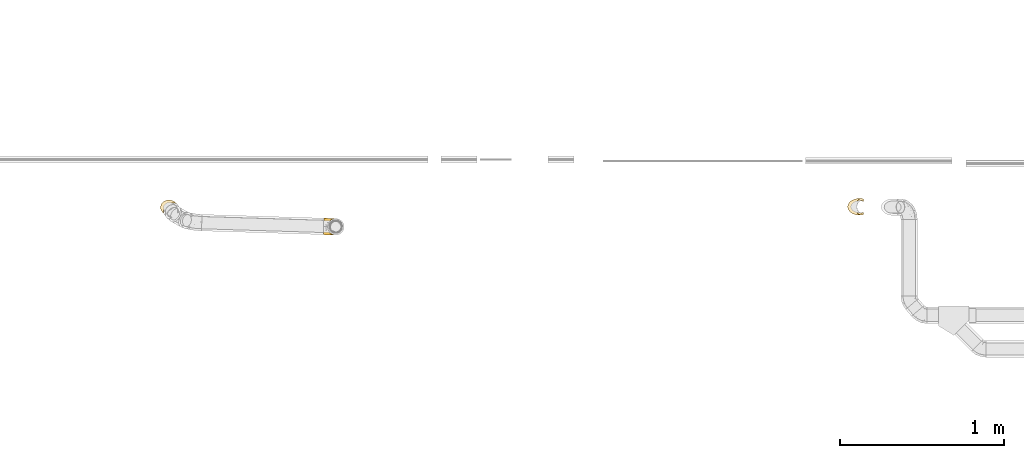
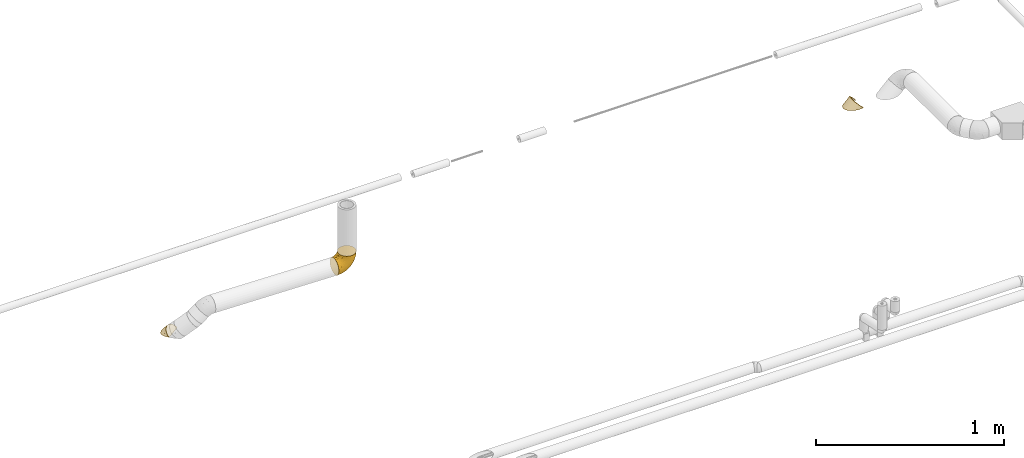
# One storey, part 32 of 156: 3 coverings.
"""IFC2X3 building model written with IfcOpenShell, lengths in millimetres."""

import ifcopenshell
import ifcopenshell.guid

model = None  # the IFC model being written
_history = None  # IfcOwnerHistory: only IFC2X3 demands one
_inside = {}  # id of a spatial element -> (the spatial element, [elements in it])
_under = {}  # id of a project, library or spatial element -> (it, [spatial elements below it])
_declared = {}  # id of a project -> (the project, [libraries it declares])
_typed = {}  # id of a type object -> (the type object, [elements of that type])
_made_of = {}  # id of a material, layer set ... -> (it, [elements and type objects made of it])


def new_model(schema):
    """Start an empty IFC model of exactly this schema.

    Asked for "IFC4X3", IfcOpenShell would pick the latest addendum, in which some entities
    have other attributes; the version numbers below select the first issue.
    IFC2X3 requires an IfcOwnerHistory on every rooted entity: one is made here for all.
    """
    global model, _history
    if schema == "IFC4X3":
        model = ifcopenshell.file(schema_version=(4, 3, 0, 0))
    else:
        model = ifcopenshell.file(schema=schema)
    _inside.clear()
    _under.clear()
    _declared.clear()
    _typed.clear()
    _made_of.clear()
    _history = None
    if model.schema == "IFC2X3":
        org = make("IfcOrganization", Name="unknown")
        user = make(
            "IfcPersonAndOrganization",
            ThePerson=make("IfcPerson", FamilyName="unknown"),
            TheOrganization=org,
        )
        app = make(
            "IfcApplication",
            ApplicationDeveloper=org,
            Version="unknown",
            ApplicationFullName="unknown",
            ApplicationIdentifier="unknown",
        )
        _history = make(
            "IfcOwnerHistory",
            OwningUser=user,
            OwningApplication=app,
            ChangeAction="ADDED",
            CreationDate=0,
        )
    return model


def make(cls, **values):
    """One entity of the class cls with the attributes given. An attribute that is None is left unset."""
    return model.create_entity(
        cls, **{name: value for name, value in values.items() if value is not None}
    )


def entity(cls, *values):
    """Any entity or typed value of the class cls, its attributes in the order of the schema. None: left unset."""
    e = model.create_entity(cls)
    for i, value in enumerate(values):
        if value is not None:
            e[i] = value
    return e


def rooted(cls, **values):
    """An entity with a GlobalId (a new one), such as an element, a storey or a relation."""
    return make(cls, GlobalId=ifcopenshell.guid.new(), OwnerHistory=_history, **values)


def si_unit(unit_type, name, prefix=None):
    """IfcSIUnit, for example si_unit("LENGTHUNIT", "METRE", prefix="MILLI")."""
    return make("IfcSIUnit", UnitType=unit_type, Prefix=prefix, Name=name)


def converted_unit(unit_type, name, factor, base, dimensions=None, offset=None):
    """IfcConversionBasedUnit, such as the inch: factor (a typed value) times the base unit."""
    return make(
        "IfcConversionBasedUnit"
        if offset is None
        else "IfcConversionBasedUnitWithOffset",
        ConversionOffset=offset,
        Dimensions=None
        if dimensions is None
        else entity("IfcDimensionalExponents", *dimensions),
        UnitType=unit_type,
        Name=name,
        ConversionFactor=make(
            "IfcMeasureWithUnit", ValueComponent=factor, UnitComponent=base
        ),
    )


def derived_unit(unit_type, elements):
    """IfcDerivedUnit: a product of units, each with its exponent."""
    return make(
        "IfcDerivedUnit",
        Elements=[
            make("IfcDerivedUnitElement", Unit=unit, Exponent=power)
            for unit, power in elements
        ],
        UnitType=unit_type,
    )


def assignment(units):
    """IfcUnitAssignment: the units of a project."""
    return None if units is None else make("IfcUnitAssignment", Units=units)


def point(xyz):
    """IfcCartesianPoint."""
    return None if xyz is None else make("IfcCartesianPoint", Coordinates=xyz)


def direction(xyz):
    """IfcDirection."""
    return None if xyz is None else make("IfcDirection", DirectionRatios=xyz)


def frame(location, z_axis=None, x_axis=None):
    """IfcAxis2Placement3D, a coordinate frame: its origin and axes. An axis left out is left unset."""
    return make(
        "IfcAxis2Placement3D",
        Location=point(location),
        Axis=direction(z_axis),
        RefDirection=direction(x_axis),
    )


def origin_with_axes():
    """The frame at (0, 0, 0) with the z axis (0, 0, 1) and the x axis (1, 0, 0) written out."""
    return frame((0.0, 0.0, 0.0), z_axis=(0.0, 0.0, 1.0), x_axis=(1.0, 0.0, 0.0))


def place(relative_to, where):
    """IfcLocalPlacement: puts the frame where relative to a parent placement (None: the world)."""
    return make(
        "IfcLocalPlacement", PlacementRelTo=relative_to, RelativePlacement=where
    )


def context(
    kind, dimensions, precision=None, world=None, true_north=None, identifier=None
):
    """IfcGeometricRepresentationContext, for example the 3D "Model" context."""
    return make(
        "IfcGeometricRepresentationContext",
        ContextIdentifier=identifier,
        ContextType=kind,
        CoordinateSpaceDimension=dimensions,
        Precision=precision,
        WorldCoordinateSystem=world,
        TrueNorth=true_north,
    )


def subcontext(parent, identifier, kind, view, scale=None):
    """IfcGeometricRepresentationSubContext, for example "Body" below "Model"."""
    return make(
        "IfcGeometricRepresentationSubContext",
        ContextIdentifier=identifier,
        ContextType=kind,
        ParentContext=parent,
        TargetScale=scale,
        TargetView=view,
    )


def project(units=None, contexts=None):
    """IfcProject with its units and contexts."""
    return rooted(
        "IfcProject",
        Name="project",
        RepresentationContexts=contexts,
        UnitsInContext=assignment(units),
    )


def spatial(cls, under=None, at=None, **own):
    """A site, building, storey or space (cls), placed at a placement, below another one or the project."""
    s = rooted(cls, ObjectPlacement=at, **own)
    if under is not None:
        _under.setdefault(under.id(), (under, []))[1].append(s)
    return s


def faces_of(points, faces, orient=None, outer=None):
    """IfcFace entities. A face is a list of loops; a loop is a list of indices into points, from 0.

    orient and outer hold one flag for each loop. By default every Orientation is true, the
    first loop of a face is its IfcFaceOuterBound and the others are IfcFaceBound.
    """
    made = []
    for i, loops in enumerate(faces):
        bounds = []
        for j, loop in enumerate(loops):
            is_outer = j == 0 if outer is None else outer[i][j]
            bounds.append(
                make(
                    "IfcFaceOuterBound" if is_outer else "IfcFaceBound",
                    Bound=make("IfcPolyLoop", Polygon=[points[k] for k in loop]),
                    Orientation=True if orient is None else orient[i][j],
                )
            )
        made.append(make("IfcFace", Bounds=bounds))
    return made


def open_shell(faces, orient=None, outer=None):
    """The faces of one IfcOpenShell. surface_model builds it on its shared points."""
    return ("IfcOpenShell", faces, orient, outer)


def faceted_brep(points, faces, orient=None, outer=None, voids=None):
    """IfcFacetedBrep: a solid bounded by flat faces; with voids (closed shells), ...WithVoids."""
    shared = [point(p) for p in points]
    hull = make("IfcClosedShell", CfsFaces=faces_of(shared, faces, orient, outer))
    if voids is None:
        return make("IfcFacetedBrep", Outer=hull)
    return make(
        "IfcFacetedBrepWithVoids",
        Outer=hull,
        Voids=[
            make(cls, CfsFaces=faces_of(shared, fs, o, b)) for cls, fs, o, b in voids
        ],
    )


def surface_model(cls, points, shells):
    """IfcFaceBasedSurfaceModel or IfcShellBasedSurfaceModel (cls): surfaces that need not close."""
    shared = [point(p) for p in points]
    made = [make(c, CfsFaces=faces_of(shared, fs, o, b)) for c, fs, o, b in shells]
    if cls == "IfcFaceBasedSurfaceModel":
        return make(cls, FbsmFaces=made)
    return make(cls, SbsmBoundary=made)


def shape(context_of_items, identifier, shape_type, items):
    """IfcShapeRepresentation: the items that make up one representation, for example the "Body"."""
    return make(
        "IfcShapeRepresentation",
        ContextOfItems=context_of_items,
        RepresentationIdentifier=identifier,
        RepresentationType=shape_type,
        Items=items,
    )


def source(mapping_origin, context_of_items, identifier, shape_type, items):
    """IfcRepresentationMap: a shape defined once, which mapped items show again and again."""
    return make(
        "IfcRepresentationMap",
        MappingOrigin=mapping_origin,
        MappedRepresentation=shape(context_of_items, identifier, shape_type, items),
    )


def transform(
    local_origin,
    x_axis=None,
    y_axis=None,
    z_axis=None,
    scale=None,
    scale2=None,
    scale3=None,
    uniform=True,
):
    """IfcCartesianTransformationOperator3D, or its non-uniform kind. x_axis, y_axis, z_axis: its Axis1, 2, 3."""
    if uniform:
        return make(
            "IfcCartesianTransformationOperator3D",
            Axis1=direction(x_axis),
            Axis2=direction(y_axis),
            LocalOrigin=point(local_origin),
            Scale=scale,
            Axis3=direction(z_axis),
        )
    return make(
        "IfcCartesianTransformationOperator3DnonUniform",
        Axis1=direction(x_axis),
        Axis2=direction(y_axis),
        LocalOrigin=point(local_origin),
        Scale=scale,
        Axis3=direction(z_axis),
        Scale2=scale2,
        Scale3=scale3,
    )


def mapped(mapping_source, mapping_target):
    """IfcMappedItem: shows the shape of a source again, moved by a transform."""
    return make(
        "IfcMappedItem", MappingSource=mapping_source, MappingTarget=mapping_target
    )


def made_of(thing, what):
    """Note that an element or type object is made of a material, layer set ...; save() writes the relation."""
    if what is not None:
        _made_of.setdefault(what.id(), (what, []))[1].append(thing)
    return thing


def element(
    cls,
    number,
    at=None,
    inside=None,
    cuts=None,
    type_object=None,
    material=None,
    context=None,
    identifier="Body",
    shape_type=None,
    held_by="IfcProductDefinitionShape",
    body=None,
    shapes=None,
    **own,
):
    """One element of the class cls, such as IfcWall. Its Tag is "e" and its number.

    at: its placement. inside: the storey or other place that contains it. cuts: it is an
    opening in that element (IfcRelVoidsElement). A single representation is given by context,
    identifier, shape_type and body (its items); several are given by shapes. held_by: the class
    of the entity that holds the representations. save() writes the other relations.
    """
    e = rooted(cls, Tag="e%d" % number, ObjectPlacement=at, **own)
    if body is not None:
        shapes = [shape(context, identifier, shape_type, body)]
    if shapes is not None:
        e.Representation = make(held_by, Representations=shapes)
    if inside is not None:
        _inside.setdefault(inside.id(), (inside, []))[1].append(e)
    if cuts is not None:
        rooted(
            "IfcRelVoidsElement", RelatingBuildingElement=cuts, RelatedOpeningElement=e
        )
    if type_object is not None:
        _typed.setdefault(type_object.id(), (type_object, []))[1].append(e)
    return made_of(e, material)


def aggregate(whole, parts):
    """IfcRelAggregates: a whole, such as a stair, and the parts it consists of."""
    return rooted("IfcRelAggregates", RelatingObject=whole, RelatedObjects=parts)


def save(model, path):
    """Write the relations noted so far, then the file.

    IfcRelAggregates (storeys below a building ...), IfcRelContainedInSpatialStructure (elements
    in a storey), IfcRelDefinesByType, IfcRelAssociatesMaterial and IfcRelDeclares: one each for
    every whole, place, type object, material and project.
    """
    for whole, parts in _under.values():
        aggregate(whole, parts)
    for where, things in _inside.values():
        rooted(
            "IfcRelContainedInSpatialStructure",
            RelatedElements=things,
            RelatingStructure=where,
        )
    for kind, things in _typed.values():
        rooted("IfcRelDefinesByType", RelatedObjects=things, RelatingType=kind)
    for what, things in _made_of.values():
        rooted("IfcRelAssociatesMaterial", RelatedObjects=things, RelatingMaterial=what)
    for by, libraries in _declared.values():
        rooted("IfcRelDeclares", RelatingContext=by, RelatedDefinitions=libraries)
    model.write(path)


model = new_model("IFC2X3")

# Units and contexts
model_context = context("Model", 3, precision=0.01, world=frame((0.0, 4.29681676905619e-09, 0.0)), true_north=direction((4.01073788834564e-13, 1.0)))
plan_context = context("Plan", 3, precision=0.01, world=frame((0.0, 4.29681676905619e-09, 0.0)), true_north=direction((4.01073788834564e-13, 1.0)))
body_context = subcontext(model_context, "Body", "Model", "MODEL_VIEW")
ifc_project = project(units=[converted_unit("PLANEANGLEUNIT", "DEGREE", entity("IfcPositiveLengthMeasure", 0.0174532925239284), si_unit("PLANEANGLEUNIT", "RADIAN"), dimensions=[0, 0, 0, 0, 0, 0, 0]), si_unit("AREAUNIT", "SQUARE_METRE"), si_unit("LENGTHUNIT", "METRE", prefix="MILLI"), si_unit("MASSUNIT", "GRAM", prefix="KILO"), si_unit("POWERUNIT", "WATT"), si_unit("PRESSUREUNIT", "PASCAL", prefix="KILO"), si_unit("FORCEUNIT", "NEWTON", prefix="KILO"), si_unit("ELECTRICVOLTAGEUNIT", "VOLT"), si_unit("ELECTRICCURRENTUNIT", "AMPERE"), si_unit("THERMODYNAMICTEMPERATUREUNIT", "DEGREE_CELSIUS"), si_unit("TIMEUNIT", "SECOND"), si_unit("VOLUMEUNIT", "CUBIC_METRE"), derived_unit("LINEARVELOCITYUNIT", [(si_unit("LENGTHUNIT", "METRE"), 1), (si_unit("TIMEUNIT", "SECOND"), -1)]), derived_unit("VOLUMETRICFLOWRATEUNIT", [(si_unit("VOLUMEUNIT", "CUBIC_METRE"), 1), (si_unit("TIMEUNIT", "SECOND"), -1)]), derived_unit("THERMALTRANSMITTANCEUNIT", [(si_unit("POWERUNIT", "WATT"), 1), (si_unit("THERMODYNAMICTEMPERATUREUNIT", "KELVIN"), -1), (si_unit("AREAUNIT", "SQUARE_METRE"), -1)]), derived_unit("SOUNDPRESSUREUNIT", [(si_unit("PRESSUREUNIT", "PASCAL"), 1)])], contexts=[model_context, plan_context])

# Site, building, storey
site_placement = place(None, frame((0.0, -4.29681676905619e-09, 0.0), z_axis=(0.0, 0.0, 1.0), x_axis=(1.0, 0.0, 0.0)))
site = spatial("IfcSite", under=ifc_project, at=site_placement, CompositionType="ELEMENT")
building_placement = place(site_placement, frame((0.0, 4.29681676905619e-09, 0.0), z_axis=(0.0, 0.0, 1.0), x_axis=(1.0, 0.0, 0.0)))
building = spatial("IfcBuilding", under=site, at=building_placement, Name="mc-building", CompositionType="ELEMENT")
storey_placement = place(building_placement, frame((0.0, 0.0, 205200.0), z_axis=(0.0, 0.0, 1.0), x_axis=(1.0, 0.0, 0.0)))
storey = spatial("IfcBuildingStorey", under=building, at=storey_placement, Name="Nivå D + 1,2 m", CompositionType="ELEMENT", Elevation=205200.0)

# Coverings
shared_shape = source(origin_with_axes(), body_context, "Body", "SurfaceModel", [
    surface_model("IfcShellBasedSurfaceModel", [(31.49394, 75.0, 39.47635), (11.24292, 75.0, 49.23258), (21.91909, 75.0, 45.49509), (-11.23089, 75.0, 49.23533), (-31.47888, 75.0, 39.48835), (-21.90382, 75.0, 45.50245), (-45.49509, 75.0, 21.91909), (-39.47635, 75.0, 31.49394), (-49.23258, 75.0, 11.24292), (-45.50245, 75.0, -21.90382), (-31.49394, 75.0, -39.47635), (-39.48835, 75.0, -31.47888), (-11.24292, 75.0, -49.23258), (-21.91909, 75.0, -45.49509), (-75.0, 25.25, -43.73428), (-75.0, 50.5, 0.0), (-75.0, 48.77925, -13.07036), (-75.0, 43.73428, -25.25), (-75.0, 13.07036, 48.77925), (-75.0, 35.70889, -35.70889), (-75.0, 13.07036, -48.77925), (-75.0, 48.77925, 13.07036), (-75.0, 35.70889, 35.70889), (-75.0, 43.73428, 25.25), (-75.0, 25.25, 43.73428), (-75.0, 0.0, 50.5), (-75.0, 0.0, -50.5), (-75.0, -35.70889, -35.70889), (-75.0, -13.07036, -48.77925), (-75.0, -25.25, -43.73428), (-75.0, -25.25, 43.73428), (-75.0, -43.73428, -25.25), (-75.0, -48.77925, -13.07036), (-75.0, -50.5, 0.0), (-75.0, -35.70889, 35.70889), (-75.0, -13.07036, 48.77925), (-75.0, -43.73428, 25.25), (-75.0, -48.77925, 13.07036), (12.64934, -12.64934, 0.0), (26.53163, 1.23295, 0.0), (11.64011, -11.64012, 17.0697), (-36.21837, -44.35759, 0.0), (-43.96193, -45.82224, 8.69831), (-50.1633, -46.56625, 0.0), (-13.93902, -32.39238, 13.94061), (-27.04529, -32.26369, 27.28364), (-45.2062, -43.62199, 17.67364), (-52.64686, -39.03065, 29.20162), (6.1382, 52.8732, 49.67312), (0.0, 75.0, 50.5), (-19.65704, -0.83379, 46.83764), (-49.45987, -19.06709, 45.22422), (-23.23209, -15.49393, 41.16316), (-49.7688, -7.34228, 49.26021), (-44.8156, -29.06527, 37.91745), (33.6367, 44.70154, 33.50702), (26.64162, 52.3117, 41.24235), (21.07138, 25.24575, 38.06097), (-4.22725, 24.69178, 49.09447), (-5.70904, 46.29874, 50.5), (-21.96699, 21.96699, 50.5), (0.2263, 8.20988, 43.53163), (35.45552, 17.83502, 10.6165), (44.35759, 36.21837, 0.0), (44.47618, 45.03363, 15.14065), (-46.29874, 5.70904, 50.5), (-27.11707, 6.63076, 49.78474), (33.03742, 23.23942, 23.31327), (45.50245, 75.0, 21.90382), (49.23533, 75.0, 11.23089), (39.48835, 75.0, 31.47888), (41.55445, 52.84592, 25.41048), (46.56625, 50.1633, 0.0), (4.57882, -11.26336, 27.48812), (22.55206, 4.12106, 21.73596), (19.66588, 8.90627, 30.22564), (-1.23295, -26.53163, 0.0), (12.07449, 31.0651, 45.19532), (17.71923, 53.83757, 46.32595), (3.04218, -2.48883, 36.42539), (-13.45794, -19.37586, 33.63512), (-18.72566, -35.44461, 0.0), (35.44461, 18.72566, 0.0), (50.5, 75.0, 0.0), (-48.52842, 68.17879, 16.68598), (-55.27416, 12.69306, 49.57038), (-58.88306, 3.20586, 50.5), (-38.27136, 29.97394, 47.59046), (-23.57111, 41.59228, 48.61379), (-36.94496, 65.19489, 35.7157), (-27.7375, 65.85146, 42.76423), (-61.4974, 42.7792, 30.74245), (-63.84733, 32.17071, 40.06434), (-51.42312, 36.25154, 40.88495), (-45.46439, 62.06116, 26.87553), (-43.34221, 68.87219, 26.87553), (-36.51863, 43.60511, 43.68418), (-65.25465, 51.47265, 9.82931), (-62.75, 53.78238, 0.0), (-68.875, 52.14119, 0.0), (-51.88239, 69.84084, 0.0), (-64.63162, 17.93727, 47.55155), (-67.6261, 47.6319, 19.32551), (-68.85458, 40.6091, 30.74245), (-50.5, 75.0, 0.0), (-44.41033, 19.8553, 49.06838), (-54.82145, 23.11094, 46.65592), (-18.51685, 60.44696, 47.66853), (-54.54935, 48.93662, 28.23238), (-62.70186, 49.7903, 18.59835), (-3.20586, 58.88306, 50.5), (-61.04403, 53.85982, 9.12542), (-30.90564, 55.6835, 42.76423), (-40.3113, 56.53409, 35.71531), (-52.18855, 61.13263, 14.72938), (-53.78238, 62.75, 0.0), (-56.73444, 57.02186, 10.61847), (-58.26619, 58.26619, 0.0), (-13.83801, 34.13287, 50.5), (-70.20679, 50.0494, 9.52724), (-46.98514, 47.44109, 35.7157), (-50.60359, 55.15507, 25.56392), (-52.83369, 43.2423, 35.13728), (-58.30018, 52.78702, 17.93024), (-34.13287, 13.83801, 50.5), (-51.7235, 52.67811, -26.88284), (-57.10258, 45.71425, -29.92521), (-56.9186, 54.00325, -17.71529), (-60.51936, 21.24165, -46.65592), (-70.0781, 47.08652, -19.32551), (-67.84416, 50.44944, -10.35086), (-64.15319, 48.81348, -19.32551), (-18.53163, 60.44501, -47.6637), (-62.8657, 52.46804, -10.44324), (-57.90228, 34.17845, -40.06435), (-65.95799, 41.25474, -30.74245), (-43.35228, 68.87084, -26.8602), (-48.5334, 68.17884, -16.67216), (-45.47548, 62.05985, -26.8602), (-36.95883, 65.19564, -35.70208), (-55.23148, 12.55824, -49.59768), (-52.18863, 61.13975, -14.71703), (-67.2194, 31.43175, -40.06434), (-55.97795, 58.02605, -9.97117), (-49.23533, 75.0, -11.23089), (-3.20586, 58.88306, -50.5), (-51.08787, 25.5783, -46.32865), (-41.32575, 29.23594, -47.11339), (-44.57478, 19.12548, -49.20135), (-23.58829, 41.57625, -48.61219), (-31.49814, 46.19734, -45.04631), (-38.07713, 57.85881, -37.07141), (-30.92319, 55.68162, -42.7546), (-38.79962, 50.15024, -39.79427), (-27.75338, 65.85005, -42.7546), (-40.50037, 40.68263, -43.08729), (-31.85017, 34.10086, -48.04724), (-5.70904, 46.29874, -50.5), (-21.96699, 21.96699, -50.5), (-13.83801, 34.13287, -50.5), (-32.99402, 23.81556, -49.7299), (-58.88306, 3.20586, -50.5), (-49.98369, 39.29273, -39.54988), (-47.00535, 47.43996, -35.70209), (-69.84084, 51.88239, 0.0), (-44.82061, 55.09846, -32.26415), (-49.27707, 57.82009, -24.66381), (0.0, 75.0, -50.5), (-46.29874, 5.70904, -50.5), (-34.13287, 13.83801, -50.5), (-27.12034, 6.63398, -49.78551), (-44.8115, -29.06446, -37.91714), (-49.45933, -19.06701, -45.22419), (-23.22135, -15.48723, -41.1635), (3.03431, -2.47986, -36.43681), (0.21934, 8.21978, -43.53855), (21.06009, 25.25195, -38.07219), (19.65845, 8.91335, -30.23922), (-4.23256, 24.69711, -49.09625), (-49.7688, -7.34228, -49.26021), (-43.96192, -45.82226, -8.69822), (-45.20209, -43.62105, -17.67341), (-19.66242, -0.82834, -46.8407), (12.06287, 31.07048, -45.20169), (-52.64059, -39.02974, -29.20117), (-27.03461, -32.25951, -27.28279), (11.63925, -11.63926, -17.0731), (4.56555, -11.2681, -27.49661), (6.13272, 52.87845, -49.67434), (11.23089, 75.0, -49.23533), (45.49509, 75.0, -21.91909), (49.23258, 75.0, -11.24292), (44.47172, 45.03273, -15.15371), (39.47635, 75.0, -31.49394), (33.62422, 44.70155, -33.52058), (31.47888, 75.0, -39.48835), (35.44701, 17.82392, -10.62791), (26.62716, 52.31215, -41.25239), (-13.93805, -32.39219, -13.93949), (22.54286, 4.11912, -21.74918), (33.03036, 23.24222, -23.32782), (41.54481, 52.84076, -25.42509), (-13.43916, -19.35244, -33.6456), (21.90382, 75.0, -45.50245), (17.70473, 53.84028, -46.33234)], [open_shell([[[0, 1, 2]], [[3, 4, 5]], [[6, 7, 8]], [[8, 7, 4]], [[9, 10, 11]], [[12, 10, 9]], [[13, 10, 12]], [[14, 15, 16]], [[14, 16, 17]], [[15, 14, 18]], [[14, 17, 19]], [[18, 14, 20]], [[21, 22, 23]], [[22, 21, 18]], [[22, 18, 24]], [[21, 15, 18]], [[20, 25, 18]], [[20, 26, 25]], [[27, 26, 28]], [[27, 28, 29]], [[30, 27, 31]], [[27, 30, 25]], [[32, 33, 31]], [[30, 33, 34]], [[35, 25, 30]], [[36, 33, 37]], [[33, 36, 34]], [[31, 33, 30]], [[25, 26, 27]], [[38, 39, 40]], [[41, 42, 43]], [[44, 45, 46]], [[46, 45, 47]], [[48, 1, 49]], [[50, 51, 52]], [[36, 37, 46]], [[35, 51, 53]], [[34, 54, 30]], [[47, 34, 36]], [[55, 56, 57]], [[56, 0, 2]], [[58, 59, 60]], [[25, 35, 53]], [[50, 52, 61]], [[62, 63, 64]], [[65, 66, 60]], [[62, 64, 67]], [[56, 55, 0]], [[51, 30, 54]], [[68, 64, 69]], [[34, 47, 54]], [[68, 70, 71]], [[64, 72, 69]], [[66, 58, 60]], [[40, 73, 44]], [[40, 74, 73]], [[55, 70, 0]], [[48, 49, 59]], [[55, 57, 75]], [[37, 43, 42]], [[40, 76, 38]], [[77, 78, 48]], [[77, 56, 78]], [[30, 51, 35]], [[73, 79, 80]], [[67, 64, 71]], [[42, 81, 44]], [[67, 55, 75]], [[71, 64, 68]], [[61, 58, 50]], [[46, 47, 36]], [[44, 46, 42]], [[44, 76, 40]], [[78, 56, 2]], [[57, 56, 77]], [[61, 57, 77]], [[57, 79, 75]], [[70, 55, 71]], [[67, 71, 55]], [[52, 51, 54]], [[50, 66, 53]], [[80, 54, 45]], [[61, 52, 79]], [[50, 53, 51]], [[25, 53, 65]], [[59, 58, 48]], [[77, 48, 58]], [[62, 67, 74]], [[62, 39, 82]], [[2, 1, 78]], [[48, 78, 1]], [[72, 64, 63]], [[72, 83, 69]], [[54, 47, 45]], [[37, 33, 43]], [[37, 42, 46]], [[53, 66, 65]], [[58, 66, 50]], [[73, 75, 79]], [[74, 67, 75]], [[80, 79, 52]], [[44, 73, 45]], [[54, 80, 52]], [[45, 73, 80]], [[73, 74, 75]], [[62, 74, 40]], [[57, 61, 79]], [[58, 61, 77]], [[40, 39, 62]], [[81, 42, 41]], [[81, 76, 44]], [[63, 62, 82]], [[6, 8, 84]], [[65, 85, 86]], [[87, 60, 88]], [[85, 18, 86]], [[89, 90, 4]], [[91, 92, 93]], [[94, 95, 84]], [[96, 93, 87]], [[97, 98, 99]], [[8, 100, 84]], [[101, 92, 24]], [[23, 102, 21]], [[22, 103, 23]], [[23, 103, 102]], [[8, 104, 100]], [[105, 87, 106]], [[88, 59, 107]], [[91, 108, 109]], [[89, 4, 7]], [[5, 90, 107]], [[18, 85, 101]], [[7, 6, 95]], [[107, 110, 3]], [[5, 107, 3]], [[97, 111, 98]], [[112, 90, 89]], [[113, 112, 89]], [[94, 84, 114]], [[84, 115, 114]], [[116, 115, 117]], [[88, 107, 112]], [[95, 89, 7]], [[24, 92, 22]], [[113, 89, 94]], [[88, 96, 87]], [[5, 4, 90]], [[88, 60, 118]], [[115, 84, 100]], [[102, 97, 119]], [[120, 121, 108]], [[121, 94, 114]], [[93, 92, 106]], [[103, 92, 91]], [[117, 111, 116]], [[121, 120, 113]], [[87, 93, 106]], [[122, 120, 108]], [[105, 106, 85]], [[88, 112, 96]], [[110, 107, 59]], [[110, 49, 3]], [[21, 119, 15]], [[107, 90, 112]], [[84, 95, 6]], [[89, 95, 94]], [[116, 121, 114]], [[111, 117, 98]], [[108, 121, 123]], [[18, 25, 86]], [[124, 105, 65]], [[85, 106, 101]], [[87, 124, 60]], [[65, 105, 85]], [[124, 87, 105]], [[92, 101, 106]], [[24, 18, 101]], [[119, 97, 99]], [[109, 97, 102]], [[113, 96, 112]], [[93, 96, 120]], [[15, 119, 99]], [[102, 119, 21]], [[121, 113, 94]], [[96, 113, 120]], [[109, 108, 123]], [[122, 91, 93]], [[92, 103, 22]], [[102, 103, 91]], [[91, 109, 102]], [[111, 109, 123]], [[109, 111, 97]], [[111, 123, 116]], [[121, 116, 123]], [[115, 116, 114]], [[91, 122, 108]], [[93, 120, 122]], [[118, 59, 88]], [[125, 126, 127]], [[14, 128, 20]], [[129, 130, 131]], [[132, 13, 12]], [[133, 130, 98]], [[126, 134, 135]], [[136, 137, 9]], [[138, 136, 139]], [[140, 20, 128]], [[137, 138, 141]], [[142, 14, 19]], [[17, 129, 135]], [[117, 143, 133]], [[14, 142, 128]], [[100, 104, 144]], [[132, 12, 145]], [[141, 115, 137]], [[146, 147, 148]], [[137, 115, 100]], [[137, 144, 9]], [[129, 17, 16]], [[140, 146, 148]], [[132, 149, 150]], [[10, 139, 11]], [[151, 152, 153]], [[10, 13, 154]], [[151, 139, 152]], [[155, 150, 156]], [[157, 132, 145]], [[17, 135, 19]], [[154, 139, 10]], [[154, 132, 152]], [[155, 153, 150]], [[149, 132, 157]], [[158, 149, 159]], [[11, 136, 9]], [[147, 160, 148]], [[100, 144, 137]], [[20, 140, 161]], [[155, 162, 163]], [[133, 143, 127]], [[16, 15, 164]], [[126, 135, 131]], [[142, 135, 134]], [[138, 165, 166]], [[141, 127, 143]], [[12, 167, 145]], [[132, 154, 13]], [[139, 154, 152]], [[139, 136, 11]], [[137, 136, 138]], [[127, 126, 131]], [[126, 163, 162]], [[133, 131, 130]], [[165, 125, 166]], [[161, 140, 168]], [[161, 26, 20]], [[160, 158, 169]], [[169, 168, 148]], [[140, 148, 168]], [[156, 160, 147]], [[169, 148, 160]], [[146, 140, 128]], [[128, 134, 146]], [[162, 146, 134]], [[155, 156, 147]], [[156, 149, 158]], [[147, 146, 162]], [[153, 155, 163]], [[147, 162, 155]], [[126, 162, 134]], [[165, 153, 163]], [[150, 153, 152]], [[125, 165, 163]], [[151, 138, 139]], [[126, 125, 163]], [[166, 127, 141]], [[132, 150, 152]], [[150, 149, 156]], [[153, 165, 151]], [[138, 151, 165]], [[127, 166, 125]], [[141, 143, 115]], [[141, 138, 166]], [[135, 142, 19]], [[128, 142, 134]], [[130, 16, 164]], [[135, 129, 131]], [[16, 130, 129]], [[98, 130, 164]], [[117, 133, 98]], [[127, 131, 133]], [[149, 157, 159]], [[158, 160, 156]], [[115, 143, 117]], [[168, 158, 170]], [[171, 172, 173]], [[174, 173, 175]], [[174, 176, 177]], [[158, 157, 178]], [[168, 179, 26]], [[172, 29, 28]], [[171, 29, 172]], [[180, 32, 181]], [[170, 178, 182]], [[175, 178, 183]], [[184, 181, 31]], [[31, 181, 32]], [[184, 171, 185]], [[38, 76, 186]], [[171, 27, 29]], [[177, 187, 174]], [[183, 178, 188]], [[167, 188, 157]], [[186, 39, 38]], [[167, 189, 188]], [[190, 191, 192]], [[193, 194, 195]], [[196, 63, 82]], [[192, 191, 72]], [[194, 197, 195]], [[198, 181, 185]], [[196, 186, 199]], [[200, 192, 196]], [[193, 190, 201]], [[183, 197, 176]], [[201, 190, 192]], [[63, 192, 72]], [[182, 172, 179]], [[171, 173, 202]], [[201, 200, 194]], [[177, 176, 194]], [[184, 31, 27]], [[195, 197, 203]], [[203, 197, 204]], [[32, 180, 43]], [[198, 81, 180]], [[198, 185, 187]], [[81, 41, 180]], [[176, 197, 194]], [[204, 197, 183]], [[177, 194, 200]], [[175, 176, 174]], [[200, 201, 192]], [[194, 193, 201]], [[179, 172, 28]], [[173, 172, 182]], [[175, 173, 182]], [[174, 187, 202]], [[26, 179, 28]], [[179, 168, 170]], [[188, 189, 204]], [[178, 157, 188]], [[63, 196, 192]], [[196, 39, 186]], [[188, 204, 183]], [[189, 203, 204]], [[191, 83, 72]], [[171, 184, 27]], [[181, 184, 185]], [[43, 180, 41]], [[43, 33, 32]], [[198, 180, 181]], [[178, 170, 158]], [[179, 170, 182]], [[200, 199, 177]], [[177, 199, 187]], [[198, 187, 186]], [[174, 202, 173]], [[187, 185, 202]], [[171, 202, 185]], [[196, 199, 200]], [[187, 199, 186]], [[178, 175, 182]], [[176, 175, 183]], [[186, 76, 198]], [[198, 76, 81]], [[82, 39, 196]], [[1, 3, 49]], [[68, 69, 70]], [[0, 70, 69]], [[4, 1, 144]], [[0, 144, 1]], [[3, 1, 4]], [[144, 8, 4]], [[8, 144, 104]], [[69, 144, 0]], [[144, 69, 191]], [[203, 191, 190]], [[195, 203, 190]], [[203, 144, 191]], [[190, 193, 195]], [[189, 144, 203]], [[167, 9, 144]], [[12, 9, 167]], [[144, 189, 167]], [[191, 69, 83]]])]),
])
covering_1_placement = place(storey_placement, frame((334915.24567, 461048.55858, 4166.76394), z_axis=(0.030661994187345, 0.999529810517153, 0.0), x_axis=(0.0, 0.0, -1.0)))
element("IfcCovering", 1, at=covering_1_placement, inside=storey, Name="BI17T - Cellegummi 13 mm SPV fett", PredefinedType="INSULATION", context=body_context, shape_type="MappedRepresentation", body=[
    mapped(shared_shape, transform((0.0, 0.0, 0.0), scale=1.0)),
])
covering_2_placement = place(storey_placement, frame((338065.34657, 461170.41457, 3961.05807), z_axis=(0.708908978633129, 0.0, -0.705299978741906), x_axis=(0.705299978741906, 0.0, 0.708908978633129)))
element("IfcCovering", 2, at=covering_2_placement, inside=storey, Name="BI17T - Cellegummi 13 mm SPV fett", PredefinedType="INSULATION", context=body_context, shape_type="Brep", body=[
    faceted_brep([(48.4535447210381, 36.9302907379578, -6.51180666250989), (54.9322002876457, 37.5, 0.0), (72.4, 37.5, 0.0), (72.4, 36.9302907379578, -6.51180666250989), (42.171739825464, 35.2384732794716, -12.8257553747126), (72.4, 35.2384732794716, -12.8257553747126), (36.2776550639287, 32.4759526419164, -18.75), (72.4, 32.4759526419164, -18.75), (30.9503792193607, 28.7266666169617, -24.1045353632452), (72.4, 28.7266666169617, -24.1045353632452), (26.3517788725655, 24.1045353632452, -28.7266666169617), (72.4, 24.1045353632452, -28.7266666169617), (22.6215801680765, 18.75, -32.4759526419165), (72.4, 18.75, -32.4759526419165), (19.8731233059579, 12.8257553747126, -35.2384732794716), (72.4, 12.8257553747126, -35.2384732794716), (18.189918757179, 6.51180666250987, -36.9302907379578), (72.4, 6.51180666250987, -36.9302907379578), (17.6231098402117, -6.88863824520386e-15, -37.5), (72.4, -6.88863824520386e-15, -37.5), (18.189918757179, -6.51180666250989, -36.9302907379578), (72.4, -6.51180666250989, -36.9302907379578), (19.8731233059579, -12.8257553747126, -35.2384732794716), (72.4, -12.8257553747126, -35.2384732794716), (22.6215801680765, -18.75, -32.4759526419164), (72.4, -18.75, -32.4759526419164), (26.3517788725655, -24.1045353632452, -28.7266666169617), (72.4, -24.1045353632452, -28.7266666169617), (30.9503792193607, -28.7266666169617, -24.1045353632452), (72.4, -28.7266666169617, -24.1045353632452), (36.2776550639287, -32.4759526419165, -18.75), (72.4, -32.4759526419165, -18.75), (42.171739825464, -35.2384732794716, -12.8257553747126), (72.4, -35.2384732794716, -12.8257553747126), (48.4535447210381, -36.9302907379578, -6.51180666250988), (72.4, -36.9302907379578, -6.51180666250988), (54.9322002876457, -37.5, 4.59242549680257e-15), (72.4, -37.5, 4.59242549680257e-15), (61.4108558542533, -36.9302907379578, 6.5118066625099), (72.4, -36.9302907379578, 6.5118066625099), (67.6926607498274, -35.2384732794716, 12.8257553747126), (72.4, -35.2384732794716, 12.8257553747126), (72.4, -33.0321728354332, 17.5571819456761), (67.6926607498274, 35.2384732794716, 12.8257553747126), (72.4, 33.0321728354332, 17.5571819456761), (72.4, 35.2384732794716, 12.8257553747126), (61.4108558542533, 36.9302907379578, 6.51180666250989), (72.4, 36.9302907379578, 6.51180666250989), (54.9322002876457, 50.5, 0.0), (46.2076107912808, 49.7327915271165, -8.76923297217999), (72.4, 49.7327915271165, -8.76923297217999), (72.4, 50.5, 0.0), (63.6567897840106, 49.7327915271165, 8.76923297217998), (72.4, 49.7327915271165, 8.76923297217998), (72.1162870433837, 47.4544773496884, 17.2720172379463), (72.4, 47.4544773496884, 17.2720172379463), (72.4, 47.3215028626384, 17.5571819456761), (72.1162870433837, -47.4544773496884, 17.2720172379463), (72.4, -47.3215028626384, 17.5571819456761), (72.4, -47.4544773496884, 17.2720172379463), (63.6567897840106, -49.7327915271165, 8.76923297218), (72.4, -49.7327915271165, 8.76923297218), (54.9322002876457, -50.5, 6.18446633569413e-15), (72.4, -50.5, 6.18446633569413e-15), (46.2076107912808, -49.7327915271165, -8.76923297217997), (72.4, -49.7327915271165, -8.76923297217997), (37.7481135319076, -47.4544773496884, -17.2720172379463), (72.4, -47.4544773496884, -17.2720172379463), (29.8107460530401, -43.7342828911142, -25.25), (72.4, -43.7342828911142, -25.25), (22.6366812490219, -38.6852443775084, -32.4607742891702), (72.4, -38.6852443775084, -32.4607742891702), (16.4438994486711, -32.4607742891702, -38.6852443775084), (72.4, -32.4607742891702, -38.6852443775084), (11.4205651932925, -25.25, -43.7342828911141), (72.4, -25.25, -43.7342828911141), (7.71930995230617, -17.2720172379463, -47.4544773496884), (72.4, -17.2720172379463, -47.4544773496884), (5.45259449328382, -8.76923297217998, -49.7327915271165), (72.4, -8.76923297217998, -49.7327915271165), (4.68929181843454, -9.2766995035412e-15, -50.5), (72.4, -9.2766995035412e-15, -50.5), (5.45259449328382, 8.76923297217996, -49.7327915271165), (72.4, 8.76923297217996, -49.7327915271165), (7.71930995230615, 17.2720172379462, -47.4544773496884), (72.4, 17.2720172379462, -47.4544773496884), (11.4205651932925, 25.25, -43.7342828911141), (72.4, 25.25, -43.7342828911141), (16.443899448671, 32.4607742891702, -38.6852443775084), (72.4, 32.4607742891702, -38.6852443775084), (22.6366812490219, 38.6852443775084, -32.4607742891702), (72.4, 38.6852443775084, -32.4607742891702), (29.8107460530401, 43.7342828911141, -25.25), (72.4, 43.7342828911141, -25.25), (37.7481135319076, 47.4544773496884, -17.2720172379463), (72.4, 47.4544773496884, -17.2720172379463)], [[[0, 1, 2, 3]], [[4, 0, 3, 5]], [[6, 4, 5, 7]], [[8, 6, 7, 9]], [[10, 8, 9, 11]], [[12, 10, 11, 13]], [[14, 12, 13, 15]], [[16, 14, 15, 17]], [[18, 16, 17, 19]], [[20, 18, 19, 21]], [[22, 20, 21, 23]], [[24, 22, 23, 25]], [[26, 24, 25, 27]], [[28, 26, 27, 29]], [[30, 28, 29, 31]], [[32, 30, 31, 33]], [[34, 32, 33, 35]], [[36, 34, 35, 37]], [[38, 36, 37, 39]], [[40, 38, 39, 41]], [[42, 40, 41]], [[43, 44, 45]], [[46, 43, 45, 47]], [[1, 46, 47, 2]], [[48, 49, 50, 51]], [[52, 48, 51, 53]], [[54, 52, 53, 55]], [[56, 54, 55]], [[57, 58, 59]], [[60, 57, 59, 61]], [[62, 60, 61, 63]], [[64, 62, 63, 65]], [[66, 64, 65, 67]], [[68, 66, 67, 69]], [[70, 68, 69, 71]], [[72, 70, 71, 73]], [[74, 72, 73, 75]], [[76, 74, 75, 77]], [[78, 76, 77, 79]], [[80, 78, 79, 81]], [[82, 80, 81, 83]], [[84, 82, 83, 85]], [[86, 84, 85, 87]], [[88, 86, 87, 89]], [[90, 88, 89, 91]], [[92, 90, 91, 93]], [[94, 92, 93, 95]], [[49, 94, 95, 50]], [[58, 42, 41, 39, 37, 35, 33, 31, 29, 27, 25, 23, 21, 19, 17, 15, 13, 11, 9, 7, 5, 3, 2, 47, 45, 44, 56, 55, 53, 51, 50, 95, 93, 91, 89, 87, 85, 83, 81, 79, 77, 75, 73, 71, 69, 67, 65, 63, 61, 59]], [[4, 6, 8, 10, 12, 14, 16, 18, 20, 22, 24, 26, 28, 30, 32, 34, 36, 38, 40, 42, 58, 57, 60, 62, 64, 66, 68, 70, 72, 74, 76, 78, 80, 82, 84, 86, 88, 90, 92, 94, 49, 48, 52, 54, 56, 44, 43, 46, 1, 0]]], orient=[[False], [False], [False], [False], [False], [False], [False], [False], [False], [False], [False], [False], [False], [False], [False], [False], [False], [False], [False], [False], [False], [False], [False], [False], [False], [False], [False], [False], [False], [False], [False], [False], [False], [False], [False], [False], [False], [False], [False], [False], [False], [False], [False], [False], [False], [False], [False], [False], [False], [False]]),
])
covering_3_placement = place(storey_placement, frame((333899.98035, 461168.59036, 3981.45511000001), z_axis=(0.666571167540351, -0.333715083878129, -0.666571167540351), x_axis=(0.707106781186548, 0.0, 0.707106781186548)))
element("IfcCovering", 3, at=covering_3_placement, inside=storey, Name="BI17T - Cellegummi 13 mm SPV fett", PredefinedType="INSULATION", context=body_context, shape_type="Brep", body=[
    faceted_brep([(17.040514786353, 20.1878443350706, -2.5978567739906), (-2.01320836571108, 44.5309560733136, -14.1925965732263), (20.36523, 15.94017, -50.5), (20.36523, 15.94017, -0.574673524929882), (23.7664890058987, 11.5947140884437, 1.49509274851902), (27.28751, 7.09625, -49.23533), (46.4497988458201, -17.3855746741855, 15.2985396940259), (47.0668332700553, -18.1739022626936, 15.6740222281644), (33.86587, -1.30831, -45.50245), (48.771294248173, -20.3515289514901, 16.7112356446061), (50.71023, -22.82873, -11.24292), (39.76756, -8.84832, -39.48835), (44.69688, -15.14604, -31.49394), (48.40659, -19.88559, -21.91909), (49.4424668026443, -21.2090194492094, 17.1196642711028), (50.71193, -22.83089, 11.23089), (51.49142, -23.82678, 0.0), (-7.04120778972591, 50.9547481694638, -17.2522790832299), (-3.97382, 47.03584, -31.47888), (0.95362, 40.74053, -39.47635), (13.43554, 24.79357, -49.23258), (6.85518, 33.20068, -45.49509), (-8.01845269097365, 52.2032890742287, -17.8469576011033), (-8.49296443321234, 52.8095329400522, -18.1357096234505), (-7.68066, 51.77173, -21.90382), (46.4296878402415, -25.2403388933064, 12.4965483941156), (42.4884937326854, -28.4442970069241, 7.18145183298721), (14.5163994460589, -36.4636399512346, -25.3306047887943), (24.7921784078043, -36.91381495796, -14.5892998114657), (33.71296, -32.39021, -16.26787), (30.698860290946, -35.5085528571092, -7.82594456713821), (34.4841243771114, -33.9072086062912, -3.24360021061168), (32.0123, -29.07327, -24.63693), (26.47732, -23.21825, -35.11472), (13.8466167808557, -36.358087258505, -26.0037517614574), (14.1096853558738, -36.4379728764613, -25.7529656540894), (10.6478612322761, -35.1001757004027, -28.9517184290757), (5.45219, -32.28872, -34.6205), (8.77673, -22.38668, -41.78238), (11.62489, -10.18801, -47.15593), (-6.97599, -19.60163, -45.70952), (9.28946, -1.05732, -49.72959), (-1.41272, 4.09694, -50.5), (-17.8143405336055, -7.41972117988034, -49.3456370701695), (-16.6763926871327, -9.93122678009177, -49.0275837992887), (-21.6160271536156, 0.711462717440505, -50.5), (-22.1483667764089, 2.97012262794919, -50.2651263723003), (-12.97373, 10.30833, -49.68483), (-2.9473, 18.41287, -48.53519), (-15.52995, 20.29258, -46.65592), (-24.1845930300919, 14.2427576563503, -48.4345655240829), (-24.1090146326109, 12.694725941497, -48.9024082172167), (-23.6612752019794, 24.194153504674, -44.3565398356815), (-23.5063094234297, 25.8931633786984, -43.5906854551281), (-9.79148, 29.63801, -42.7546), (-21.8799966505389, 30.1261040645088, -40.3669739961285), (-16.36418, 36.88079, -35.70237), (-8.10074, 39.96, -35.70208), (-14.5310114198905, 44.2384252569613, -27.5751924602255), (-15.4114420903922, 42.6944419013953, -29.0557480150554), (-14.3357686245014, 44.780460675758, -27.1761911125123), (-13.4868360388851, 46.1684628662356, -25.7842678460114), (-9.71851161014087, 51.4213756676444, -19.9272051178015), (-18.241449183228, 38.235431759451, -33.6363836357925), (-19.605564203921, 36.4808386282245, -35.7045951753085), (-11.5501487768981, -18.0197493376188, -46.453011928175), (-9.7675361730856, -20.4365268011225, -45.4175558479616), (-6.06903200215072, -23.6138738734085, -42.6189472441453), (3.78246744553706, -31.9134015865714, -35.1064646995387), (4.36981078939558, -32.4069394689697, -34.6581206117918), (4.86371268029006, -32.7222818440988, -34.2458175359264), (37.137308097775, -32.6951752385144, 0.0)], [[[0, 1, 2]], [[3, 0, 2]], [[4, 3, 2, 5]], [[6, 4, 5]], [[7, 6, 5, 8]], [[9, 7, 8, 10]], [[11, 10, 8]], [[11, 12, 10]], [[10, 12, 13]], [[14, 9, 10, 15]], [[10, 16, 15]], [[1, 17, 18, 2]], [[2, 18, 19]], [[19, 20, 2]], [[20, 19, 21]], [[17, 22, 18]], [[22, 23, 24, 18]], [[25, 14, 15]], [[26, 25, 15]], [[27, 28, 29]], [[28, 30, 29]], [[30, 31, 10, 29]], [[10, 13, 29]], [[29, 13, 32]], [[32, 13, 12]], [[12, 33, 32]], [[34, 35, 32, 33]], [[36, 34, 33, 37]], [[37, 33, 38]], [[33, 11, 38]], [[8, 38, 11]], [[8, 39, 38]], [[39, 40, 38]], [[40, 39, 41]], [[41, 39, 5]], [[5, 2, 41]], [[42, 41, 2]], [[43, 44, 41, 42]], [[45, 43, 42]], [[46, 45, 42, 47]], [[47, 42, 48]], [[48, 49, 47]], [[50, 51, 47, 49]], [[52, 50, 49]], [[53, 52, 49, 54]], [[55, 53, 54, 56]], [[57, 56, 54]], [[58, 59, 56, 57]], [[60, 58, 57, 18]], [[57, 19, 18]], [[61, 60, 18, 24]], [[62, 61, 24]], [[23, 62, 24]], [[59, 63, 56]], [[63, 64, 56]], [[19, 57, 54]], [[21, 19, 54]], [[54, 48, 21]], [[21, 48, 20]], [[64, 55, 56]], [[54, 49, 48]], [[20, 48, 42]], [[51, 46, 47]], [[42, 2, 20]], [[44, 65, 40, 41]], [[65, 66, 40]], [[66, 67, 38, 40]], [[39, 8, 5]], [[67, 68, 37, 38]], [[68, 69, 37]], [[69, 70, 37]], [[70, 36, 37]], [[11, 33, 12]], [[31, 71, 16, 10]], [[35, 27, 29, 32]], [[71, 26, 15, 16]], [[3, 4, 6, 7, 9, 14, 25, 26, 71, 31, 30, 28, 27, 35, 34, 36, 70, 69, 68, 67, 66, 65, 44, 43, 45, 46, 51, 50, 52, 53, 55, 64, 63, 59, 58, 60, 61, 62, 23, 22, 17, 1, 0]]], orient=[[False], [False], [False], [False], [False], [False], [False], [False], [False], [False], [False], [False], [False], [False], [False], [False], [False], [False], [False], [False], [False], [False], [False], [False], [False], [False], [False], [False], [False], [False], [False], [False], [False], [False], [False], [False], [False], [False], [False], [False], [False], [False], [False], [False], [False], [False], [False], [False], [False], [False], [False], [False], [False], [False], [False], [False], [False], [False], [False], [False], [False], [False], [False], [False], [False], [False], [False], [False], [False], [False], [False], [False], [False], [False], [False], [False], [False]]),
])

save(model, "model.ifc")
